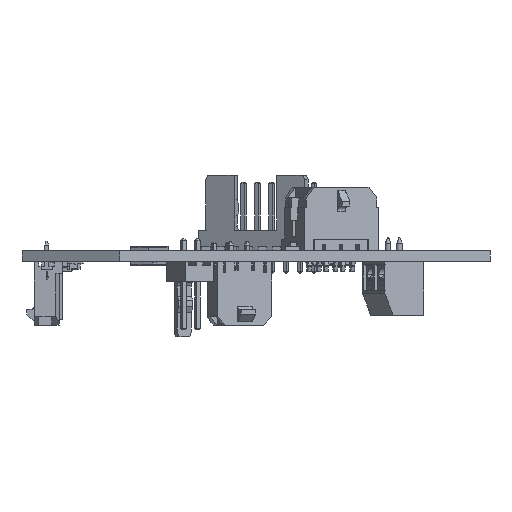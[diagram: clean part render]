
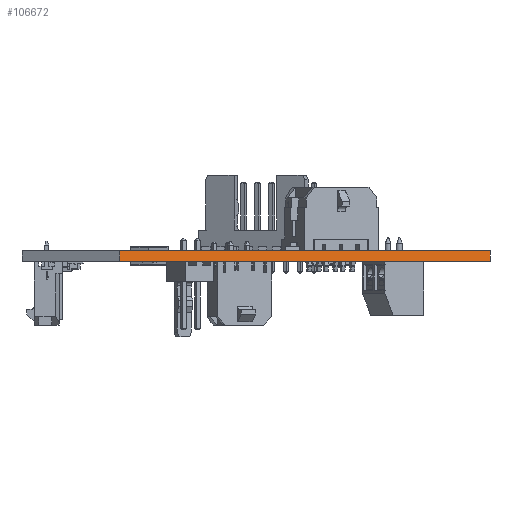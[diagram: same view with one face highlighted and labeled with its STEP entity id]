
A CAD part, left-side view. The second image highlights one B-rep face of the part: STEP entity #106672.
In plain terms, the highlighted planar face has unit normal (-0.866, -0.5, 0).
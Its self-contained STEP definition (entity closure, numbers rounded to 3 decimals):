
#106556 = EDGE_CURVE('',#106557,#106559,#106561,.T.);
#106557 = VERTEX_POINT('',#106558);
#106558 = CARTESIAN_POINT('',(-8.796,-43.468,0.));
#106559 = VERTEX_POINT('',#106560);
#106560 = CARTESIAN_POINT('',(-8.796,-43.468,1.6));
#106561 = SURFACE_CURVE('',#106562,(#106566,#106578),.PCURVE_S1.);
#106562 = LINE('',#106563,#106564);
#106563 = CARTESIAN_POINT('',(-8.796,-43.468,0.));
#106564 = VECTOR('',#106565,1.);
#106565 = DIRECTION('',(0.,0.,1.));
#106566 = PCURVE('',#106567,#106572);
#106567 = PLANE('',#106568);
#106568 = AXIS2_PLACEMENT_3D('',#106569,#106570,#106571);
#106569 = CARTESIAN_POINT('',(-8.796,-43.468,0.));
#106570 = DIRECTION('',(0.,1.,0.));
#106571 = DIRECTION('',(1.,0.,0.));
#106572 = DEFINITIONAL_REPRESENTATION('',(#106573),#106577);
#106573 = LINE('',#106574,#106575);
#106574 = CARTESIAN_POINT('',(0.,0.));
#106575 = VECTOR('',#106576,1.);
#106576 = DIRECTION('',(0.,-1.));
#106577 = ( GEOMETRIC_REPRESENTATION_CONTEXT(2) 
PARAMETRIC_REPRESENTATION_CONTEXT() REPRESENTATION_CONTEXT('2D SPACE',''
  ) );
#106578 = PCURVE('',#106579,#106584);
#106579 = PLANE('',#106580);
#106580 = AXIS2_PLACEMENT_3D('',#106581,#106582,#106583);
#106581 = CARTESIAN_POINT('',(-42.043,14.117,0.));
#106582 = DIRECTION('',(0.866,0.5,0.));
#106583 = DIRECTION('',(0.5,-0.866,0.));
#106584 = DEFINITIONAL_REPRESENTATION('',(#106585),#106589);
#106585 = LINE('',#106586,#106587);
#106586 = CARTESIAN_POINT('',(66.494,0.));
#106587 = VECTOR('',#106588,1.);
#106588 = DIRECTION('',(0.,-1.));
#106589 = ( GEOMETRIC_REPRESENTATION_CONTEXT(2) 
PARAMETRIC_REPRESENTATION_CONTEXT() REPRESENTATION_CONTEXT('2D SPACE',''
  ) );
#106607 = PLANE('',#106608);
#106608 = AXIS2_PLACEMENT_3D('',#106609,#106610,#106611);
#106609 = CARTESIAN_POINT('',(0.,0.002,
    1.6));
#106610 = DIRECTION('',(0.,0.,1.));
#106611 = DIRECTION('',(1.,0.,0.));
#106661 = PLANE('',#106662);
#106662 = AXIS2_PLACEMENT_3D('',#106663,#106664,#106665);
#106663 = CARTESIAN_POINT('',(0.,0.002,
    0.));
#106664 = DIRECTION('',(0.,0.,1.));
#106665 = DIRECTION('',(1.,0.,0.));
#106672 = ADVANCED_FACE('',(#106673),#106579,.F.);
#106673 = FACE_BOUND('',#106674,.F.);
#106674 = EDGE_LOOP('',(#106675,#106705,#106726,#106727));
#106675 = ORIENTED_EDGE('',*,*,#106676,.T.);
#106676 = EDGE_CURVE('',#106677,#106679,#106681,.T.);
#106677 = VERTEX_POINT('',#106678);
#106678 = CARTESIAN_POINT('',(-42.043,14.117,0.));
#106679 = VERTEX_POINT('',#106680);
#106680 = CARTESIAN_POINT('',(-42.043,14.117,1.6));
#106681 = SURFACE_CURVE('',#106682,(#106686,#106693),.PCURVE_S1.);
#106682 = LINE('',#106683,#106684);
#106683 = CARTESIAN_POINT('',(-42.043,14.117,0.));
#106684 = VECTOR('',#106685,1.);
#106685 = DIRECTION('',(0.,0.,1.));
#106686 = PCURVE('',#106579,#106687);
#106687 = DEFINITIONAL_REPRESENTATION('',(#106688),#106692);
#106688 = LINE('',#106689,#106690);
#106689 = CARTESIAN_POINT('',(0.,0.));
#106690 = VECTOR('',#106691,1.);
#106691 = DIRECTION('',(0.,-1.));
#106692 = ( GEOMETRIC_REPRESENTATION_CONTEXT(2) 
PARAMETRIC_REPRESENTATION_CONTEXT() REPRESENTATION_CONTEXT('2D SPACE',''
  ) );
#106693 = PCURVE('',#106694,#106699);
#106694 = PLANE('',#106695);
#106695 = AXIS2_PLACEMENT_3D('',#106696,#106697,#106698);
#106696 = CARTESIAN_POINT('',(-33.244,29.355,0.));
#106697 = DIRECTION('',(0.866,-0.5,0.));
#106698 = DIRECTION('',(-0.5,-0.866,0.));
#106699 = DEFINITIONAL_REPRESENTATION('',(#106700),#106704);
#106700 = LINE('',#106701,#106702);
#106701 = CARTESIAN_POINT('',(17.596,0.));
#106702 = VECTOR('',#106703,1.);
#106703 = DIRECTION('',(0.,-1.));
#106704 = ( GEOMETRIC_REPRESENTATION_CONTEXT(2) 
PARAMETRIC_REPRESENTATION_CONTEXT() REPRESENTATION_CONTEXT('2D SPACE',''
  ) );
#106705 = ORIENTED_EDGE('',*,*,#106706,.T.);
#106706 = EDGE_CURVE('',#106679,#106559,#106707,.T.);
#106707 = SURFACE_CURVE('',#106708,(#106712,#106719),.PCURVE_S1.);
#106708 = LINE('',#106709,#106710);
#106709 = CARTESIAN_POINT('',(-42.043,14.117,1.6));
#106710 = VECTOR('',#106711,1.);
#106711 = DIRECTION('',(0.5,-0.866,0.));
#106712 = PCURVE('',#106579,#106713);
#106713 = DEFINITIONAL_REPRESENTATION('',(#106714),#106718);
#106714 = LINE('',#106715,#106716);
#106715 = CARTESIAN_POINT('',(0.,-1.6));
#106716 = VECTOR('',#106717,1.);
#106717 = DIRECTION('',(1.,0.));
#106718 = ( GEOMETRIC_REPRESENTATION_CONTEXT(2) 
PARAMETRIC_REPRESENTATION_CONTEXT() REPRESENTATION_CONTEXT('2D SPACE',''
  ) );
#106719 = PCURVE('',#106607,#106720);
#106720 = DEFINITIONAL_REPRESENTATION('',(#106721),#106725);
#106721 = LINE('',#106722,#106723);
#106722 = CARTESIAN_POINT('',(-42.043,14.115));
#106723 = VECTOR('',#106724,1.);
#106724 = DIRECTION('',(0.5,-0.866));
#106725 = ( GEOMETRIC_REPRESENTATION_CONTEXT(2) 
PARAMETRIC_REPRESENTATION_CONTEXT() REPRESENTATION_CONTEXT('2D SPACE',''
  ) );
#106726 = ORIENTED_EDGE('',*,*,#106556,.F.);
#106727 = ORIENTED_EDGE('',*,*,#106728,.F.);
#106728 = EDGE_CURVE('',#106677,#106557,#106729,.T.);
#106729 = SURFACE_CURVE('',#106730,(#106734,#106741),.PCURVE_S1.);
#106730 = LINE('',#106731,#106732);
#106731 = CARTESIAN_POINT('',(-42.043,14.117,0.));
#106732 = VECTOR('',#106733,1.);
#106733 = DIRECTION('',(0.5,-0.866,0.));
#106734 = PCURVE('',#106579,#106735);
#106735 = DEFINITIONAL_REPRESENTATION('',(#106736),#106740);
#106736 = LINE('',#106737,#106738);
#106737 = CARTESIAN_POINT('',(0.,0.));
#106738 = VECTOR('',#106739,1.);
#106739 = DIRECTION('',(1.,0.));
#106740 = ( GEOMETRIC_REPRESENTATION_CONTEXT(2) 
PARAMETRIC_REPRESENTATION_CONTEXT() REPRESENTATION_CONTEXT('2D SPACE',''
  ) );
#106741 = PCURVE('',#106661,#106742);
#106742 = DEFINITIONAL_REPRESENTATION('',(#106743),#106747);
#106743 = LINE('',#106744,#106745);
#106744 = CARTESIAN_POINT('',(-42.043,14.115));
#106745 = VECTOR('',#106746,1.);
#106746 = DIRECTION('',(0.5,-0.866));
#106747 = ( GEOMETRIC_REPRESENTATION_CONTEXT(2) 
PARAMETRIC_REPRESENTATION_CONTEXT() REPRESENTATION_CONTEXT('2D SPACE',''
  ) );
